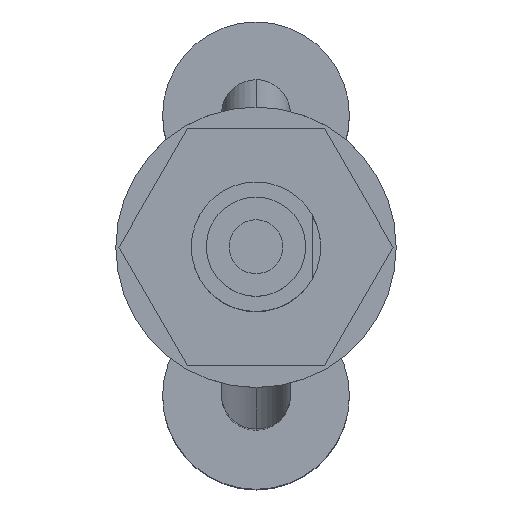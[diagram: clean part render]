
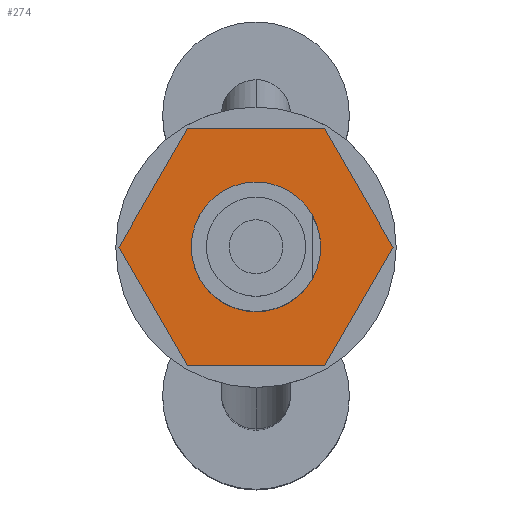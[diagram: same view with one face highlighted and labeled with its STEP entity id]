
A CAD part, top view. The second image highlights one B-rep face of the part: STEP entity #274.
In plain terms, the highlighted planar face has unit normal (0, 0, 1) as drawn and (-1, 0, 0) by its records, which use the part's own axes.
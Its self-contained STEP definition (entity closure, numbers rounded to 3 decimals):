
#274 = ADVANCED_FACE ( 'NONE', ( #1400, #1399 ), #1398, .F. ) ;
#275 = EDGE_LOOP ( 'NONE', ( #327, #330, #333, #336, #339, #312 ) ) ;
#276 = VERTEX_POINT ( 'NONE', #1393 ) ;
#312 = ORIENTED_EDGE ( 'NONE', *, *, #313, .T. ) ;
#313 = EDGE_CURVE ( 'NONE', #341, #276, #1416, .T. ) ;
#314 = EDGE_LOOP ( 'NONE', ( #315, #316 ) ) ;
#315 = ORIENTED_EDGE ( 'NONE', *, *, #343, .F. ) ;
#316 = ORIENTED_EDGE ( 'NONE', *, *, #317, .F. ) ;
#317 = EDGE_CURVE ( 'NONE', #345, #344, #1479, .T. ) ;
#327 = ORIENTED_EDGE ( 'NONE', *, *, #328, .T. ) ;
#328 = EDGE_CURVE ( 'NONE', #276, #329, #1456, .T. ) ;
#329 = VERTEX_POINT ( 'NONE', #1452 ) ;
#330 = ORIENTED_EDGE ( 'NONE', *, *, #331, .T. ) ;
#331 = EDGE_CURVE ( 'NONE', #329, #332, #1451, .T. ) ;
#332 = VERTEX_POINT ( 'NONE', #1512 ) ;
#333 = ORIENTED_EDGE ( 'NONE', *, *, #334, .T. ) ;
#334 = EDGE_CURVE ( 'NONE', #332, #335, #1511, .T. ) ;
#335 = VERTEX_POINT ( 'NONE', #1507 ) ;
#336 = ORIENTED_EDGE ( 'NONE', *, *, #337, .T. ) ;
#337 = EDGE_CURVE ( 'NONE', #335, #338, #1506, .T. ) ;
#338 = VERTEX_POINT ( 'NONE', #1502 ) ;
#339 = ORIENTED_EDGE ( 'NONE', *, *, #340, .T. ) ;
#340 = EDGE_CURVE ( 'NONE', #338, #341, #1501, .T. ) ;
#341 = VERTEX_POINT ( 'NONE', #1497 ) ;
#343 = EDGE_CURVE ( 'NONE', #344, #345, #1496, .T. ) ;
#344 = VERTEX_POINT ( 'NONE', #1491 ) ;
#345 = VERTEX_POINT ( 'NONE', #1490 ) ;
#1393 = CARTESIAN_POINT ( 'NONE',  ( 5.5, 2.75, -1.588 ) ) ;
#1394 = DIRECTION ( 'NONE',  ( 0., 0., -1. ) ) ;
#1395 = DIRECTION ( 'NONE',  ( 1., 0., 0. ) ) ;
#1396 = CARTESIAN_POINT ( 'NONE',  ( 5.5, 5.5, 0. ) ) ;
#1397 = AXIS2_PLACEMENT_3D ( 'NONE', #1396, #1395, #1394 ) ;
#1398 = PLANE ( 'NONE',  #1397 ) ;
#1399 = FACE_BOUND ( 'NONE', #314, .T. ) ;
#1400 = FACE_OUTER_BOUND ( 'NONE', #275, .T. ) ;
#1413 = DIRECTION ( 'NONE',  ( 0., 0., -1. ) ) ;
#1414 = VECTOR ( 'NONE', #1413, 1000. ) ;
#1415 = CARTESIAN_POINT ( 'NONE',  ( 5.5, 2.75, 1.588 ) ) ;
#1416 = LINE ( 'NONE', #1415, #1414 ) ;
#1448 = DIRECTION ( 'NONE',  ( 0., -0.866, 0.5 ) ) ;
#1449 = VECTOR ( 'NONE', #1448, 1000. ) ;
#1450 = CARTESIAN_POINT ( 'NONE',  ( 5.5, 0., -3.175 ) ) ;
#1451 = LINE ( 'NONE', #1450, #1449 ) ;
#1452 = CARTESIAN_POINT ( 'NONE',  ( 5.5, 0., -3.175 ) ) ;
#1453 = DIRECTION ( 'NONE',  ( 0., -0.866, -0.5 ) ) ;
#1454 = VECTOR ( 'NONE', #1453, 1000. ) ;
#1455 = CARTESIAN_POINT ( 'NONE',  ( 5.5, 2.75, -1.588 ) ) ;
#1456 = LINE ( 'NONE', #1455, #1454 ) ;
#1475 = DIRECTION ( 'NONE',  ( 0., 0., 1. ) ) ;
#1476 = DIRECTION ( 'NONE',  ( -1., 0., 0. ) ) ;
#1477 = CARTESIAN_POINT ( 'NONE',  ( 5.5, 0., 0. ) ) ;
#1478 = AXIS2_PLACEMENT_3D ( 'NONE', #1477, #1476, #1475 ) ;
#1479 = CIRCLE ( 'NONE', #1478, 1.5 ) ;
#1490 = CARTESIAN_POINT ( 'NONE',  ( 5.5, 0., 1.5 ) ) ;
#1491 = CARTESIAN_POINT ( 'NONE',  ( 5.5, 0., -1.5 ) ) ;
#1492 = DIRECTION ( 'NONE',  ( 0., 0., 1. ) ) ;
#1493 = DIRECTION ( 'NONE',  ( -1., 0., 0. ) ) ;
#1494 = CARTESIAN_POINT ( 'NONE',  ( 5.5, 0., 0. ) ) ;
#1495 = AXIS2_PLACEMENT_3D ( 'NONE', #1494, #1493, #1492 ) ;
#1496 = CIRCLE ( 'NONE', #1495, 1.5 ) ;
#1497 = CARTESIAN_POINT ( 'NONE',  ( 5.5, 2.75, 1.588 ) ) ;
#1498 = DIRECTION ( 'NONE',  ( 0., 0.866, -0.5 ) ) ;
#1499 = VECTOR ( 'NONE', #1498, 1000. ) ;
#1500 = CARTESIAN_POINT ( 'NONE',  ( 5.5, 0., 3.175 ) ) ;
#1501 = LINE ( 'NONE', #1500, #1499 ) ;
#1502 = CARTESIAN_POINT ( 'NONE',  ( 5.5, 0., 3.175 ) ) ;
#1503 = DIRECTION ( 'NONE',  ( 0., 0.866, 0.5 ) ) ;
#1504 = VECTOR ( 'NONE', #1503, 1000. ) ;
#1505 = CARTESIAN_POINT ( 'NONE',  ( 5.5, -2.75, 1.588 ) ) ;
#1506 = LINE ( 'NONE', #1505, #1504 ) ;
#1507 = CARTESIAN_POINT ( 'NONE',  ( 5.5, -2.75, 1.588 ) ) ;
#1508 = DIRECTION ( 'NONE',  ( 0., 0., 1. ) ) ;
#1509 = VECTOR ( 'NONE', #1508, 1000. ) ;
#1510 = CARTESIAN_POINT ( 'NONE',  ( 5.5, -2.75, -1.588 ) ) ;
#1511 = LINE ( 'NONE', #1510, #1509 ) ;
#1512 = CARTESIAN_POINT ( 'NONE',  ( 5.5, -2.75, -1.588 ) ) ;
